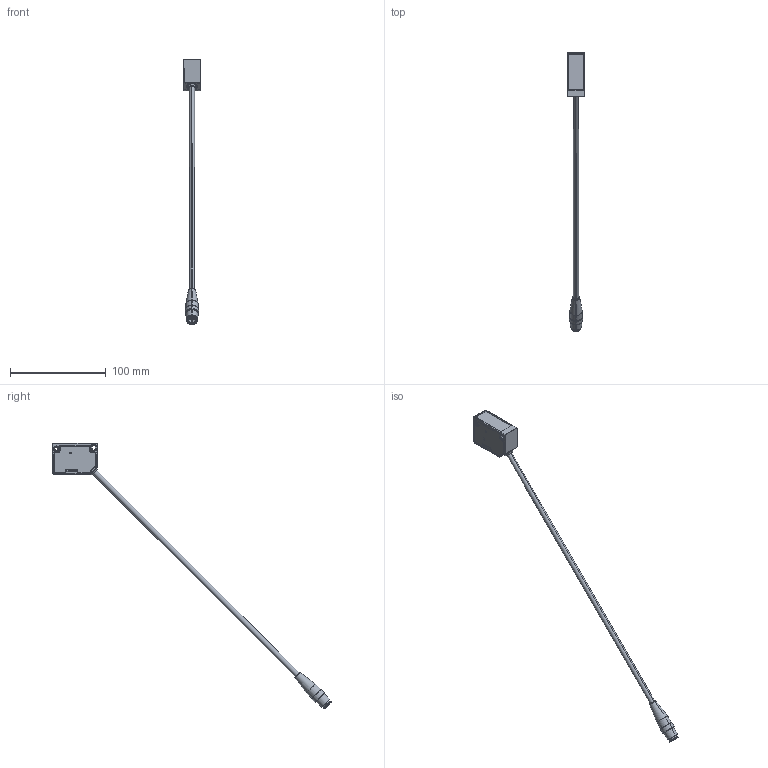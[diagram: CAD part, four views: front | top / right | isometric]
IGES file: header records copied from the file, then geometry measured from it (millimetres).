
Start section: SolidWorks IGES file using analytic representation for surfaces
Global section: file name: C:\Users\y-wada\OneDrive - OPTEX CO.,LTD\デスクトップ\3Ddata_CD2S.IGS; native system: SolidWorks 2023; preprocessor: SolidWorks 2023; author: y-wada; date: 251106.183448; units: millimetre
Bounding box: 18.4 x 291.34 x 277.93 mm (x, y, z)
Surface area: 23630.4 mm2 (no closed solid volume)
Topology: 0 solids, 0 shells, 567 faces, 5417 edges, 5413 vertices
Faces by surface type: bspline 302, revolution 265
